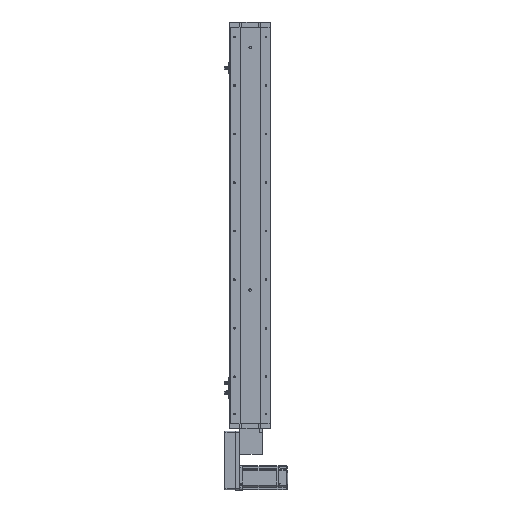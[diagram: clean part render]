
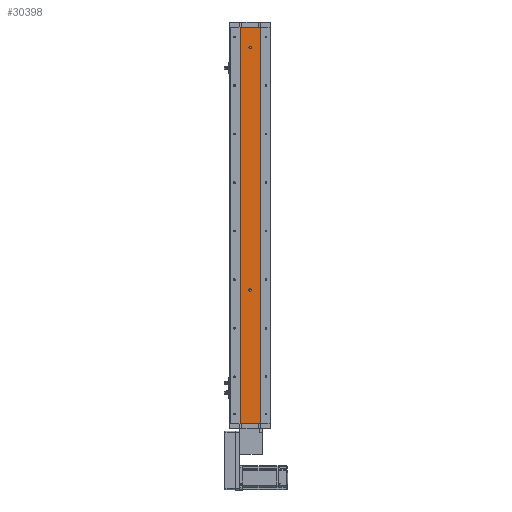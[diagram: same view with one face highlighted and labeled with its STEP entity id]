
A CAD part, left-side view. The second image highlights one B-rep face of the part: STEP entity #30398.
In plain terms, the highlighted planar face has unit normal (-1, 0, 0).
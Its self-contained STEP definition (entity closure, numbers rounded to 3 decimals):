
#120 = AXIS2_PLACEMENT_3D ( 'NONE', #33693, #10328, #37580 ) ;
#1320 = DIRECTION ( 'NONE',  ( 1., 0., 0. ) ) ;
#2240 = VERTEX_POINT ( 'NONE', #6055 ) ;
#2520 = CARTESIAN_POINT ( 'NONE',  ( -18.926, 0., 930. ) ) ;
#3640 = EDGE_CURVE ( 'NONE', #2240, #10559, #49925, .T. ) ;
#4902 = AXIS2_PLACEMENT_3D ( 'NONE', #12941, #1320, #28588 ) ;
#6055 = CARTESIAN_POINT ( 'NONE',  ( -18.926, 0., 933. ) ) ;
#6473 = DIRECTION ( 'NONE',  ( 0., 0., 1. ) ) ;
#8036 = LINE ( 'NONE', #44626, #37907 ) ;
#8316 = VECTOR ( 'NONE', #47791, 1000. ) ;
#9394 = AXIS2_PLACEMENT_3D ( 'NONE', #37415, #14094, #41352 ) ;
#9454 = ORIENTED_EDGE ( 'NONE', *, *, #19488, .F. ) ;
#10328 = DIRECTION ( 'NONE',  ( -1., 0., 0. ) ) ;
#10559 = VERTEX_POINT ( 'NONE', #34779 ) ;
#10749 = EDGE_LOOP ( 'NONE', ( #9454, #46151 ) ) ;
#11185 = CARTESIAN_POINT ( 'NONE',  ( -18.926, -24.785, 980. ) ) ;
#11853 = VERTEX_POINT ( 'NONE', #20972 ) ;
#11990 = EDGE_CURVE ( 'NONE', #40333, #29942, #40030, .T. ) ;
#12686 = FACE_BOUND ( 'NONE', #32565, .T. ) ;
#12941 = CARTESIAN_POINT ( 'NONE',  ( -18.926, 24.785, 980. ) ) ;
#13828 = CARTESIAN_POINT ( 'NONE',  ( -18.926, -24.785, 0. ) ) ;
#14046 = DIRECTION ( 'NONE',  ( 0., -1., 0. ) ) ;
#14094 = DIRECTION ( 'NONE',  ( -1., 0., 0. ) ) ;
#14253 = AXIS2_PLACEMENT_3D ( 'NONE', #2520, #29782, #6473 ) ;
#15805 = VERTEX_POINT ( 'NONE', #26804 ) ;
#16073 = EDGE_CURVE ( 'NONE', #20924, #15805, #28626, .T. ) ;
#16276 = CARTESIAN_POINT ( 'NONE',  ( -18.926, 0., 327. ) ) ;
#17066 = VERTEX_POINT ( 'NONE', #11185 ) ;
#18560 = LINE ( 'NONE', #30348, #39328 ) ;
#18644 = LINE ( 'NONE', #24255, #8316 ) ;
#19246 = VECTOR ( 'NONE', #14046, 1000. ) ;
#19348 = AXIS2_PLACEMENT_3D ( 'NONE', #44181, #20764, #48087 ) ;
#19488 = EDGE_CURVE ( 'NONE', #15805, #20924, #37495, .T. ) ;
#20764 = DIRECTION ( 'NONE',  ( -1., 0., 0. ) ) ;
#20924 = VERTEX_POINT ( 'NONE', #16276 ) ;
#20972 = CARTESIAN_POINT ( 'NONE',  ( -18.926, 24.785, 980. ) ) ;
#24233 = FACE_OUTER_BOUND ( 'NONE', #26637, .T. ) ;
#24255 = CARTESIAN_POINT ( 'NONE',  ( -18.926, 24.785, 980. ) ) ;
#24649 = EDGE_CURVE ( 'NONE', #11853, #17066, #18644, .T. ) ;
#24661 = PLANE ( 'NONE',  #4902 ) ;
#26473 = EDGE_CURVE ( 'NONE', #10559, #2240, #32505, .T. ) ;
#26637 = EDGE_LOOP ( 'NONE', ( #43376, #41787, #45038, #36222 ) ) ;
#26804 = CARTESIAN_POINT ( 'NONE',  ( -18.926, 0., 333. ) ) ;
#28588 = DIRECTION ( 'NONE',  ( 0., 0., -1. ) ) ;
#28626 = CIRCLE ( 'NONE', #19348, 3. ) ;
#29782 = DIRECTION ( 'NONE',  ( -1., 0., 0. ) ) ;
#29942 = VERTEX_POINT ( 'NONE', #13828 ) ;
#30348 = CARTESIAN_POINT ( 'NONE',  ( -18.926, 24.785, 980. ) ) ;
#30398 = ADVANCED_FACE ( 'NONE', ( #42541, #12686, #24233 ), #24661, .F. ) ;
#32123 = EDGE_CURVE ( 'NONE', #11853, #40333, #18560, .T. ) ;
#32505 = CIRCLE ( 'NONE', #14253, 3. ) ;
#32565 = EDGE_LOOP ( 'NONE', ( #34369, #43243 ) ) ;
#33475 = CARTESIAN_POINT ( 'NONE',  ( -18.926, 24.785, 0. ) ) ;
#33693 = CARTESIAN_POINT ( 'NONE',  ( -18.926, 0., 930. ) ) ;
#34369 = ORIENTED_EDGE ( 'NONE', *, *, #3640, .F. ) ;
#34779 = CARTESIAN_POINT ( 'NONE',  ( -18.926, 0., 927. ) ) ;
#36222 = ORIENTED_EDGE ( 'NONE', *, *, #32123, .T. ) ;
#37415 = CARTESIAN_POINT ( 'NONE',  ( -18.926, 0., 330. ) ) ;
#37495 = CIRCLE ( 'NONE', #9394, 3. ) ;
#37580 = DIRECTION ( 'NONE',  ( 0., 0., 1. ) ) ;
#37907 = VECTOR ( 'NONE', #48520, 1000. ) ;
#39328 = VECTOR ( 'NONE', #49942, 1000. ) ;
#40030 = LINE ( 'NONE', #33475, #19246 ) ;
#40333 = VERTEX_POINT ( 'NONE', #42261 ) ;
#41352 = DIRECTION ( 'NONE',  ( 0., 0., 1. ) ) ;
#41787 = ORIENTED_EDGE ( 'NONE', *, *, #43569, .F. ) ;
#42261 = CARTESIAN_POINT ( 'NONE',  ( -18.926, 24.785, 0. ) ) ;
#42541 = FACE_BOUND ( 'NONE', #10749, .T. ) ;
#43243 = ORIENTED_EDGE ( 'NONE', *, *, #26473, .F. ) ;
#43376 = ORIENTED_EDGE ( 'NONE', *, *, #11990, .T. ) ;
#43569 = EDGE_CURVE ( 'NONE', #17066, #29942, #8036, .T. ) ;
#44181 = CARTESIAN_POINT ( 'NONE',  ( -18.926, 0., 330. ) ) ;
#44626 = CARTESIAN_POINT ( 'NONE',  ( -18.926, -24.785, 980. ) ) ;
#45038 = ORIENTED_EDGE ( 'NONE', *, *, #24649, .F. ) ;
#46151 = ORIENTED_EDGE ( 'NONE', *, *, #16073, .F. ) ;
#47791 = DIRECTION ( 'NONE',  ( 0., -1., 0. ) ) ;
#48087 = DIRECTION ( 'NONE',  ( 0., 0., 1. ) ) ;
#48520 = DIRECTION ( 'NONE',  ( 0., 0., -1. ) ) ;
#49925 = CIRCLE ( 'NONE', #120, 3. ) ;
#49942 = DIRECTION ( 'NONE',  ( 0., 0., -1. ) ) ;
